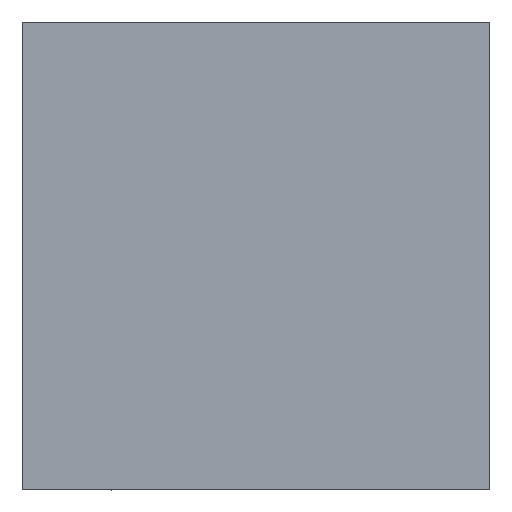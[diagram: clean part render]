
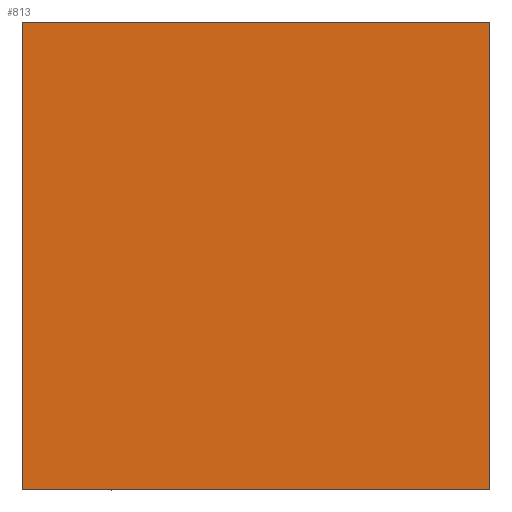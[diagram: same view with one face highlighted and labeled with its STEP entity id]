
A CAD part, front view. The second image highlights one B-rep face of the part: STEP entity #813.
In plain terms, the highlighted planar face has unit normal (0, -1, 0).
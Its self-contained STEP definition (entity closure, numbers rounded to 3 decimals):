
#343=CARTESIAN_POINT('Vertex',(-10.,0.,10.)) ;
#346=CARTESIAN_POINT('Line Origine',(0.,0.,10.)) ;
#350=CARTESIAN_POINT('Vertex',(10.,0.,10.)) ;
#375=CARTESIAN_POINT('Vertex',(10.,0.,-10.)) ;
#378=CARTESIAN_POINT('Line Origine',(10.,0.,0.)) ;
#563=CARTESIAN_POINT('Vertex',(-10.,0.,-10.)) ;
#566=CARTESIAN_POINT('Line Origine',(0.,0.,-10.)) ;
#722=CARTESIAN_POINT('Line Origine',(-10.,0.,0.)) ;
#802=CARTESIAN_POINT('Axis2P3D Location',(0.,0.,-0.)) ;
#347=DIRECTION('Vector Direction',(1.,0.,0.)) ;
#379=DIRECTION('Vector Direction',(0.,0.,-1.)) ;
#567=DIRECTION('Vector Direction',(-1.,0.,0.)) ;
#723=DIRECTION('Vector Direction',(0.,0.,1.)) ;
#803=DIRECTION('Axis2P3D Direction',(0.,1.,-0.)) ;
#804=DIRECTION('Axis2P3D XDirection',(0.,0.,1.)) ;
#805=AXIS2_PLACEMENT_3D('Plane Axis2P3D',#802,#803,#804) ;
#808=ORIENTED_EDGE('',*,*,#570,.F.) ;
#809=ORIENTED_EDGE('',*,*,#382,.F.) ;
#810=ORIENTED_EDGE('',*,*,#352,.F.) ;
#811=ORIENTED_EDGE('',*,*,#726,.F.) ;
#348=VECTOR('Line Direction',#347,1.) ;
#380=VECTOR('Line Direction',#379,1.) ;
#568=VECTOR('Line Direction',#567,1.) ;
#724=VECTOR('Line Direction',#723,1.) ;
#813=ADVANCED_FACE('395V-04-020-080',(#812),#806,.F.) ;
#352=EDGE_CURVE('',#344,#351,#349,.T.) ;
#382=EDGE_CURVE('',#351,#376,#381,.T.) ;
#570=EDGE_CURVE('',#376,#564,#569,.T.) ;
#726=EDGE_CURVE('',#564,#344,#725,.T.) ;
#807=EDGE_LOOP('',(#808,#809,#810,#811)) ;
#812=FACE_OUTER_BOUND('',#807,.T.) ;
#349=LINE('Line',#346,#348) ;
#381=LINE('Line',#378,#380) ;
#569=LINE('Line',#566,#568) ;
#725=LINE('Line',#722,#724) ;
#806=PLANE('Plane',#805) ;
#344=VERTEX_POINT('',#343) ;
#351=VERTEX_POINT('',#350) ;
#376=VERTEX_POINT('',#375) ;
#564=VERTEX_POINT('',#563) ;
